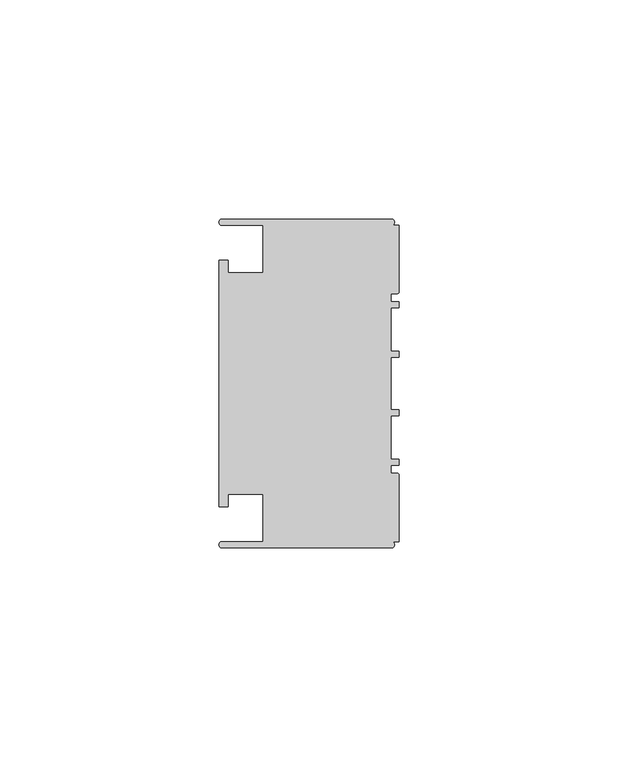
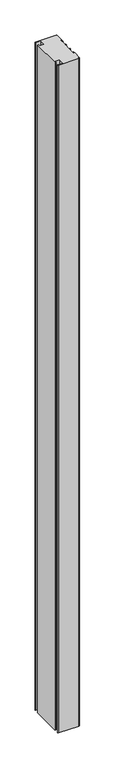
"""IFC4 building model written with IfcOpenShell, lengths in millimetres: member geometry, Прямоугольный импост : 3-AMG-2-Профиль 40Х75 Верх П."""

from ifc_helpers import new_model, si_unit, point, frame, frame_2d, origin, place, context, project, spatial, polyline, circle_curve, trimmed, segment, composite_curve, outline, extrude, source, transform, mapped, element, save


def member_36226d30(model_context):
    return source(origin(), model_context, "Body", "SweptSolid", [
        extrude(outline(composite_curve([segment(polyline([(-1.7, -37.5), (-40.4, -37.5)]), True, "CONTINUOUS"), segment(trimmed(circle_curve(frame_2d((-40.4, -36.8)), 0.7), [point((-40.4, -37.5))], [point((-40.4, -36.1))], False, "CARTESIAN"), True, "CONTINUOUS"), segment(polyline([(-40.4, -36.1), (-31.0, -36.1), (-31.0, -25.25), (-39.0, -25.25), (-39.0, -28.1), (-41.1, -28.1), (-41.1, 28.1), (-39.0, 28.1), (-39.0, 25.25), (-31.0, 25.25), (-31.0, 36.1), (-40.4, 36.1)]), True, "CONTINUOUS"), segment(trimmed(circle_curve(frame_2d((-40.4, 36.8)), 0.7), [point((-40.4, 36.1))], [point((-40.4, 37.5))], False, "CARTESIAN"), True, "CONTINUOUS"), segment(polyline([(-40.4, 37.5), (-1.7, 37.5)]), True, "CONTINUOUS"), segment(trimmed(circle_curve(frame_2d((-1.7, 36.8)), 0.7), [point((-1.7, 37.5))], [point((-1.7, 36.1))], False, "CARTESIAN"), True, "CONTINUOUS"), segment(polyline([(-1.7, 36.1), (0.0, 36.1), (0.0, 20.95)]), True, "CONTINUOUS"), segment(trimmed(circle_curve(frame_2d((-0.5, 20.95)), 0.5), [point((0.0, 20.95))], [point((-0.5, 20.45))], False, "CARTESIAN"), True, "CONTINUOUS"), segment(polyline([(-0.5, 20.45), (-1.8, 20.45), (-1.8, 18.65), (0.0, 18.65), (0.0, 17.25), (-1.8, 17.25), (-1.8, 7.4), (0.0, 7.4), (0.0, 6.0), (-1.8, 6.0), (-1.8, -6.0), (0.0, -6.0), (0.0, -7.4), (-1.8, -7.4), (-1.8, -17.25), (0.0, -17.25), (0.0, -18.65), (-1.8, -18.65), (-1.8, -20.45), (-0.5, -20.45)]), True, "CONTINUOUS"), segment(trimmed(circle_curve(frame_2d((-0.5, -20.95)), 0.5), [point((-0.5, -20.45))], [point((0.0, -20.95))], False, "CARTESIAN"), True, "CONTINUOUS"), segment(polyline([(0.0, -20.95), (0.0, -36.1), (-1.7, -36.1)]), True, "CONTINUOUS"), segment(trimmed(circle_curve(frame_2d((-1.7, -36.8)), 0.7), [point((-1.7, -36.1))], [point((-1.7, -37.5))], False, "CARTESIAN"), True, "CONTINUOUS")], self_intersect=False)), frame((0.0, 0.0, -1315.0), z_axis=(0.0, 0.0, 1.0), x_axis=(1.0, 0.0, 0.0)), (0.0, 0.0, 1.0), 1315.0),
    ])


if __name__ == "__main__":
    model = new_model("IFC4")
    model_context = context("Model", 3, world=origin())
    ifc_project = project(units=[si_unit("LENGTHUNIT", "METRE", prefix="MILLI")], contexts=[model_context])
    site = spatial("IfcSite", under=ifc_project)
    building = spatial("IfcBuilding", under=site)
    placement = place(None, origin())
    member_shape = member_36226d30(model_context)
    element("IfcMember", 1, ObjectType="Прямоугольный импост : 3-AMG-2-Профиль 40Х75 Верх П", at=placement, inside=building, context=model_context, shape_type="MappedRepresentation", body=[
        mapped(member_shape, transform((0.0, 0.0, 0.0), x_axis=(1.0, 0.0, 0.0), y_axis=(0.0, 1.0, 0.0), z_axis=(0.0, 0.0, 1.0))),
    ])
    save(model, "model.ifc")
